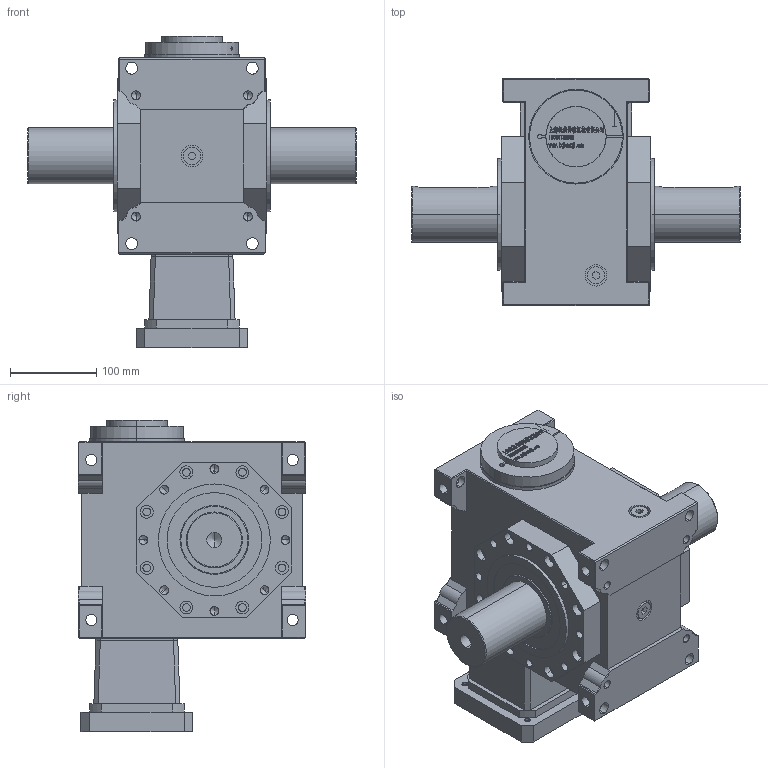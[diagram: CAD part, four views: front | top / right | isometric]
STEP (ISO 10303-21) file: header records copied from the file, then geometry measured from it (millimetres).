
FILE_DESCRIPTION (( 'STEP AP203' ), '1' );
FILE_NAME ('FXLB090-(5~90)-AB-22-110-145-M8.step', '2022-11-05T14:28:56', ( '' ), ( '' ), 'SwSTEP 2.0', 'SolidWorks 2020', '' );
FILE_SCHEMA (( 'CONFIG_CONTROL_DESIGN' ));
Products named in the file (8): JDLB090-ST110________1.step; 錨璃150^FXLB090-(5~90)-AB-22-110-145-M8; JDLB090-CR____.step; FXLB090-(5~90)-AB-22-110-145-M8.step; FXLB090-(5~90)-AB-22-110-145-M8; ______BD68-73.3-24-22____.step; ST130-110-145-M8____________.step; JDLB090-AB________65.step
Assembly tree (7 placements, depth 3):
  FXLB090-(5~90)-AB-22-110-145-M8
    FXLB090-(5~90)-AB-22-110-145-M8.step
      JDLB090-CR____.step
      JDLB090-AB________65.step
      JDLB090-ST110________1.step
      ST130-110-145-M8____________.step
      ______BD68-73.3-24-22____.step
    錨璃150^FXLB090-(5~90)-AB-22-110-145-M8
Bounding box: 382 x 264 x 362.2 mm (x, y, z)
Volume: 10544639 mm3; surface area: 716010.3 mm2
Topology: 81 solids, 81 shells, 2608 faces, 6876 edges, 4481 vertices
Faces by surface type: plane 1523, bspline 572, cylinder 393, cone 100, torus 20
Entity records: 107495 total; most frequent: CARTESIAN_POINT 45705, ORIENTED_EDGE 13604, DIRECTION 10572, EDGE_CURVE 6802, VECTOR 4692, LINE 4692, VERTEX_POINT 4481, AXIS2_PLACEMENT_3D 2940
